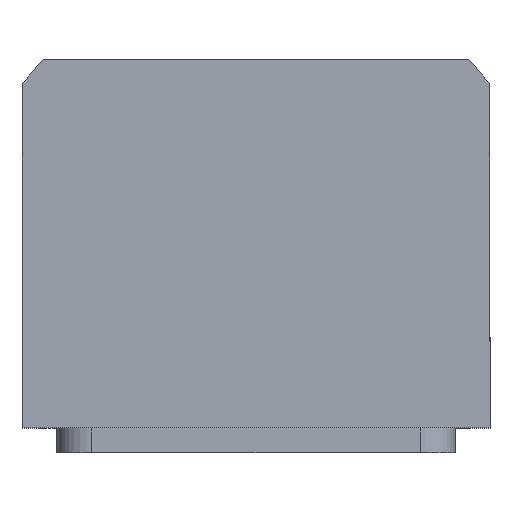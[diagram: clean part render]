
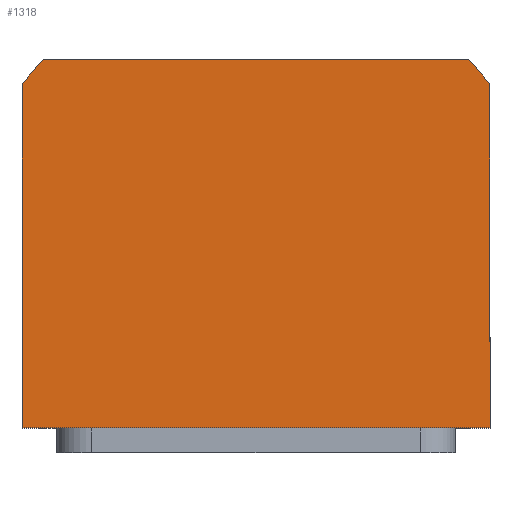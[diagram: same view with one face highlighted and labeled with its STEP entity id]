
A CAD part, top view. The second image highlights one B-rep face of the part: STEP entity #1318.
In plain terms, the highlighted planar face has unit normal (0, 0, 1).
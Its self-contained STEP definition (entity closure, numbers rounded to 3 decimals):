
#3 = CARTESIAN_POINT ( 'NONE',  ( 47., 34.832, 40. ) ) ;
#117 = ORIENTED_EDGE ( 'NONE', *, *, #1406, .T. ) ;
#275 = DIRECTION ( 'NONE',  ( 0., -1., 0. ) ) ;
#398 = LINE ( 'NONE', #11278, #4739 ) ;
#806 = DIRECTION ( 'NONE',  ( -1., 0., 0. ) ) ;
#868 = EDGE_CURVE ( 'NONE', #7812, #6612, #3947, .T. ) ;
#938 = CIRCLE ( 'NONE', #5635, 58.5 ) ;
#1001 = CARTESIAN_POINT ( 'NONE',  ( 47., -34., 40. ) ) ;
#1318 = ADVANCED_FACE ( 'NONE', ( #4304 ), #4732, .T. ) ;
#1378 = CARTESIAN_POINT ( 'NONE',  ( -47., 34.832, 40. ) ) ;
#1406 = EDGE_CURVE ( 'NONE', #4419, #7112, #2547, .T. ) ;
#1608 = VERTEX_POINT ( 'NONE', #3958 ) ;
#2390 = DIRECTION ( 'NONE',  ( 1., 0., 0. ) ) ;
#2547 = CIRCLE ( 'NONE', #6430, 58.5 ) ;
#2736 = AXIS2_PLACEMENT_3D ( 'NONE', #9980, #10878, #4880 ) ;
#2992 = DIRECTION ( 'NONE',  ( 1., 0., 0. ) ) ;
#3947 = LINE ( 'NONE', #6307, #10635 ) ;
#3958 = CARTESIAN_POINT ( 'NONE',  ( -42.688, 40., 40. ) ) ;
#4304 = FACE_OUTER_BOUND ( 'NONE', #10618, .T. ) ;
#4419 = VERTEX_POINT ( 'NONE', #3 ) ;
#4668 = ORIENTED_EDGE ( 'NONE', *, *, #6300, .T. ) ;
#4732 = PLANE ( 'NONE',  #2736 ) ;
#4739 = VECTOR ( 'NONE', #806, 1000. ) ;
#4753 = VECTOR ( 'NONE', #10423, 1000. ) ;
#4755 = VERTEX_POINT ( 'NONE', #1001 ) ;
#4880 = DIRECTION ( 'NONE',  ( 1., 0., 0. ) ) ;
#4960 = DIRECTION ( 'NONE',  ( 1., 0., 0. ) ) ;
#5025 = ORIENTED_EDGE ( 'NONE', *, *, #7254, .T. ) ;
#5635 = AXIS2_PLACEMENT_3D ( 'NONE', #7622, #8510, #4960 ) ;
#6300 = EDGE_CURVE ( 'NONE', #7112, #1608, #398, .T. ) ;
#6307 = CARTESIAN_POINT ( 'NONE',  ( -47., -34., 40. ) ) ;
#6430 = AXIS2_PLACEMENT_3D ( 'NONE', #8310, #8192, #2992 ) ;
#6612 = VERTEX_POINT ( 'NONE', #9733 ) ;
#7070 = LINE ( 'NONE', #10491, #4753 ) ;
#7112 = VERTEX_POINT ( 'NONE', #10082 ) ;
#7254 = EDGE_CURVE ( 'NONE', #6612, #4755, #8568, .T. ) ;
#7488 = EDGE_CURVE ( 'NONE', #4755, #4419, #7070, .T. ) ;
#7622 = CARTESIAN_POINT ( 'NONE',  ( 0., 0., 40. ) ) ;
#7812 = VERTEX_POINT ( 'NONE', #1378 ) ;
#8109 = ORIENTED_EDGE ( 'NONE', *, *, #868, .T. ) ;
#8192 = DIRECTION ( 'NONE',  ( 0., 0., 1. ) ) ;
#8274 = ORIENTED_EDGE ( 'NONE', *, *, #7488, .T. ) ;
#8310 = CARTESIAN_POINT ( 'NONE',  ( 0., 0., 40. ) ) ;
#8510 = DIRECTION ( 'NONE',  ( 0., 0., 1. ) ) ;
#8568 = LINE ( 'NONE', #11143, #11315 ) ;
#8912 = EDGE_CURVE ( 'NONE', #1608, #7812, #938, .T. ) ;
#9733 = CARTESIAN_POINT ( 'NONE',  ( -47., -34., 40. ) ) ;
#9980 = CARTESIAN_POINT ( 'NONE',  ( 0., 0., 40. ) ) ;
#10082 = CARTESIAN_POINT ( 'NONE',  ( 42.688, 40., 40. ) ) ;
#10423 = DIRECTION ( 'NONE',  ( 0., 1., 0. ) ) ;
#10491 = CARTESIAN_POINT ( 'NONE',  ( 47., 34.832, 40. ) ) ;
#10618 = EDGE_LOOP ( 'NONE', ( #5025, #8274, #117, #4668, #11273, #8109 ) ) ;
#10635 = VECTOR ( 'NONE', #275, 1000. ) ;
#10878 = DIRECTION ( 'NONE',  ( 0., 0., 1. ) ) ;
#11143 = CARTESIAN_POINT ( 'NONE',  ( 47., -34., 40. ) ) ;
#11273 = ORIENTED_EDGE ( 'NONE', *, *, #8912, .T. ) ;
#11278 = CARTESIAN_POINT ( 'NONE',  ( -42.688, 40., 40. ) ) ;
#11315 = VECTOR ( 'NONE', #2390, 1000. ) ;
